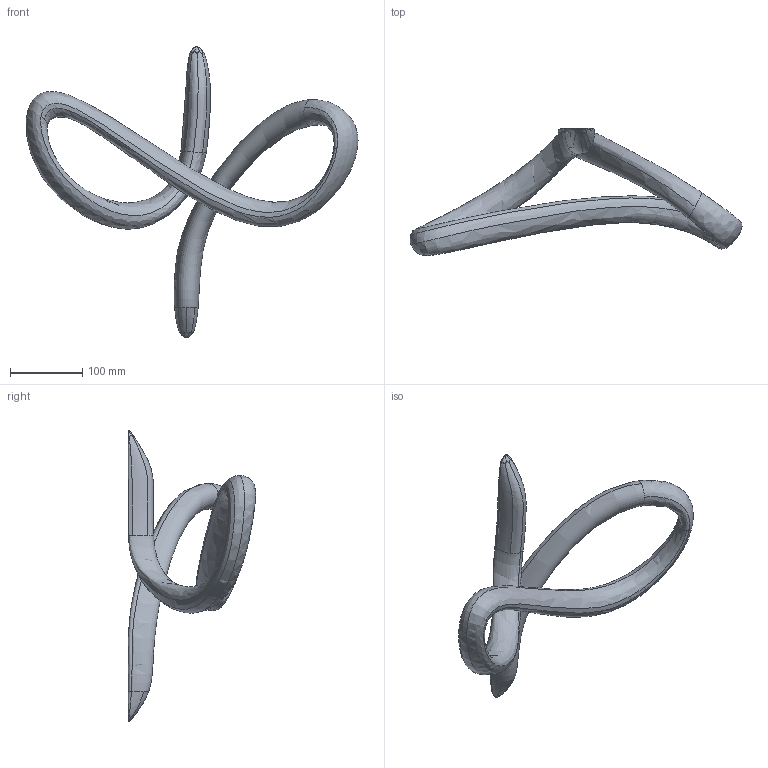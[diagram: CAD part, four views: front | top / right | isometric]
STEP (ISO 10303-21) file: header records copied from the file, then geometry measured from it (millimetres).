
FILE_DESCRIPTION (( 'STEP AP214' ), '1' );
FILE_NAME ('VERTIGO_400mm.STEP', '2017-11-28T09:53:23', ( '' ), ( '' ), 'SwSTEP 2.0', 'SolidWorks 2016', '' );
FILE_SCHEMA (( 'AUTOMOTIVE_DESIGN' ));
Products named in the file (2): VERTIGO_400mm; Imported1
Assembly tree (1 placements, depth 2):
  VERTIGO_400mm
    Imported1
Bounding box: 458.57 x 175.84 x 401.96 mm (x, y, z)
Volume: 1420532.9 mm3; surface area: 171326.9 mm2
Topology: 1 solids, 1 shells, 39 faces, 97 edges, 60 vertices
Faces by surface type: bspline 39
Entity records: 61555 total; most frequent: CARTESIAN_POINT 60881, ORIENTED_EDGE 194, EDGE_CURVE 97, B_SPLINE_CURVE_WITH_KNOTS 97, VERTEX_POINT 60, EDGE_LOOP 39, B_SPLINE_SURFACE_WITH_KNOTS 39, ADVANCED_FACE 39
